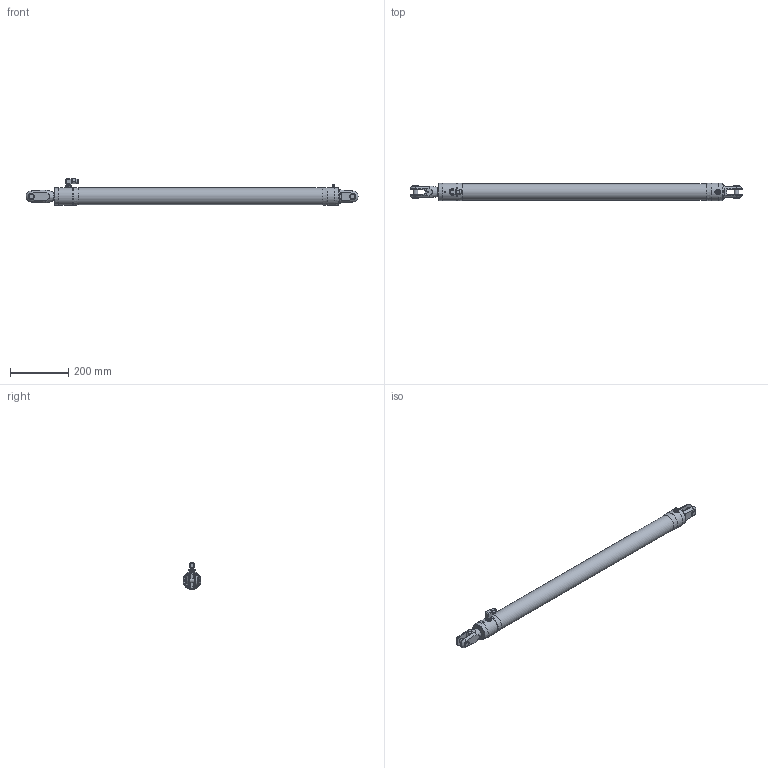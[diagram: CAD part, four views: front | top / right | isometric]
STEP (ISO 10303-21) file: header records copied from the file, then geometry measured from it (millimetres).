
FILE_DESCRIPTION(/* description */ (''),/* implementation_level */ '2;1');
FILE_NAME(/* name */ 'Q:\AA BRAND HYDRAULICS\HYDRAULICS FAMILY DIRECTORY\HYDRAULICS\CYLINDERS\RAMS\ALUMINIUM - STANDARD SINGLE ACTING (-0006 To -0260)\RSA-0017-S0800-NP-71\RSA-0017-S0800-NP-71 (Closed).stp',/* time_stamp */ '2017-11-30T10:37:35+00:00',/* author */ ('Lorena'),/* organization */ (''),/* preprocessor_version */ 'ST-DEVELOPER v16.13',/* originating_system */ 'Autodesk Inventor 2018',/* authorisation */ '');
FILE_SCHEMA (('AUTOMOTIVE_DESIGN { 1 0 10303 214 3 1 1 }'));
Length unit declared in the file: millimetre
Products named in the file (1): RSA-0017-S0800-NP-71 (Closed)
Bounding box: 1141.65 x 61.4 x 92.2 mm (x, y, z)
Volume: 2818134.7 mm3; surface area: 223213.3 mm2
Topology: 1 solids, 4 shells, 1605 faces, 4249 edges, 2801 vertices
Faces by surface type: plane 886, bspline 572, cylinder 80, cone 58, torus 5, sphere 4
Full cylindrical faces by diameter (mm): 4 x1, 4.4 x1, 5 x1, 5.1 x1, 6 x2, 6.6 x2, 7 x1, 9 x1, 10 x2, 11.11 x1, 11.157 x1, 11.8 x1, 12 x3, 12.157 x1, 13 x1, 13.157 x2, 14.5 x2, 15.88 x2, 18 x1, 18.3 x2, 19.85 x2, 34 x1, 58.4 x1, 61.4 x4
Entity records: 56218 total; most frequent: CARTESIAN_POINT 19214, ORIENTED_EDGE 8250, DIRECTION 5246, EDGE_CURVE 4125, VERTEX_POINT 2764, LINE 2652, VECTOR 2652, EDGE_LOOP 1844
